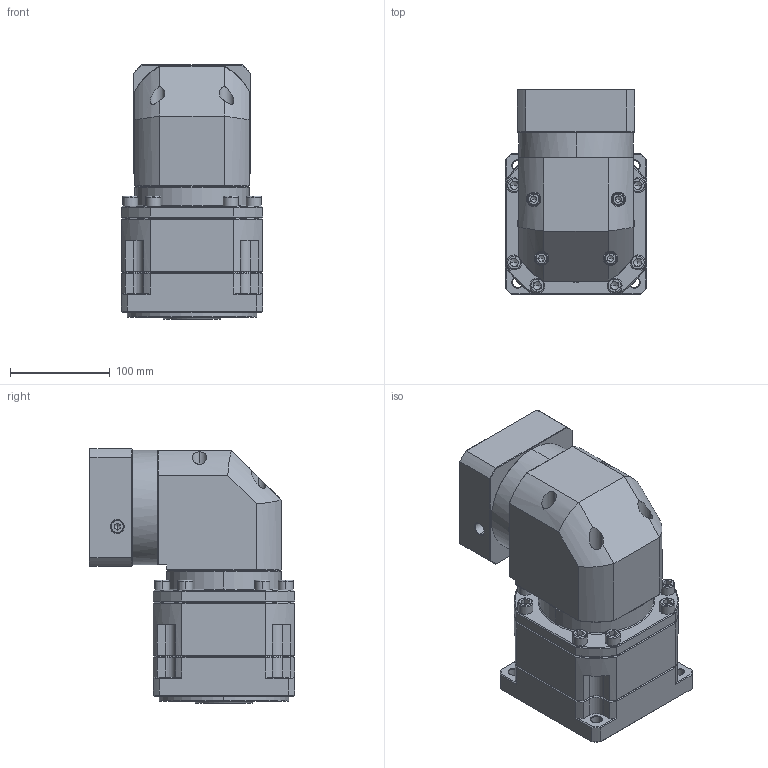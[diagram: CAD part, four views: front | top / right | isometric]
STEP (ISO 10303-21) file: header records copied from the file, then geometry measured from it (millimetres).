
FILE_DESCRIPTION (( 'STEP AP214' ), '1' );
FILE_NAME ('ZBR142A-K35-L2-P2-24-110-130-M8.step', '2023-09-02T08:13:16', ( '' ), ( '' ), 'SwSTEP 2.0', 'SolidWorks 2016', '' );
FILE_SCHEMA (( 'AUTOMOTIVE_DESIGN' ));
Length unit declared in the file: millimetre
Products named in the file (1): ZBR142A-K35-L2-P2-24-110-130-M8
Bounding box: 142 x 205.9 x 255.2 mm (x, y, z)
Volume: 4209637.9 mm3; surface area: 311443.7 mm2
Topology: 6 solids, 6 shells, 2530 faces, 6593 edges, 4188 vertices
Faces by surface type: plane 1225, cylinder 465, bspline 403, cone 393, torus 44
Entity records: 130492 total; most frequent: CARTESIAN_POINT 43798, ORIENTED_EDGE 13082, DIRECTION 10748, EDGE_CURVE 6541, VECTOR 4216, LINE 4216, VERTEX_POINT 4188, AXIS2_PLACEMENT_3D 3266
